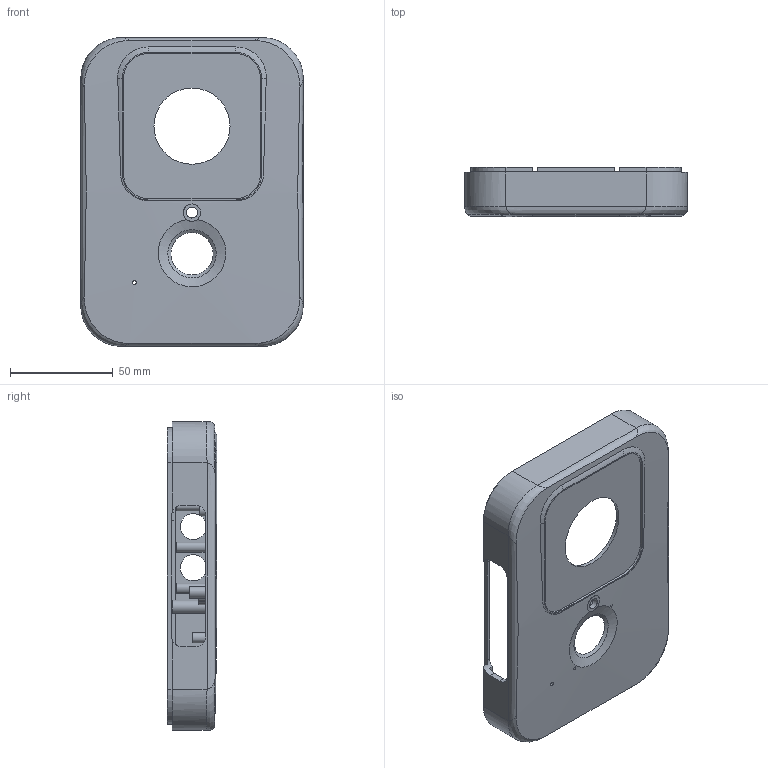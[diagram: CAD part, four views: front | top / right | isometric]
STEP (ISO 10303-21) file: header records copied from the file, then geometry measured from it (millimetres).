
FILE_DESCRIPTION(('Open CASCADE Model'),'2;1');
FILE_NAME('01_FRONT_TUB_CONNECTED','2026-09-06T11:49:07',('Author'),( 'Open CASCADE'),'Open CASCADE STEP processor 7.8','build123d', 'Unknown');
FILE_SCHEMA(('AUTOMOTIVE_DESIGN { 1 0 10303 214 1 1 1 1 }'));
Length unit declared in the file: millimetre
Products named in the file (1): 01_FRONT_TUB_CONNECTED
Bounding box: 108 x 24.1 x 150 mm (x, y, z)
Volume: 59771.6 mm3; surface area: 54142.7 mm2
Topology: 1 solids, 1 shells, 304 faces, 800 edges, 533 vertices
Faces by surface type: plane 179, cylinder 106, bspline 17, sphere 1, cone 1
Full cylindrical faces by diameter (mm): 1.6 x4, 2 x14, 2.2 x4, 3.6 x8, 4.8 x5, 5 x2, 5.2 x1, 5.3 x1, 5.6 x6, 6.2 x1, 8.4 x1, 12.7 x2, 37 x1
Entity records: 24755 total; most frequent: CARTESIAN_POINT 9013, DIRECTION 2867, ORIENTED_EDGE 1600, PCURVE 1600, DEFINITIONAL_REPRESENTATION 1600, LINE 1586, VECTOR 1586, EDGE_CURVE 800
